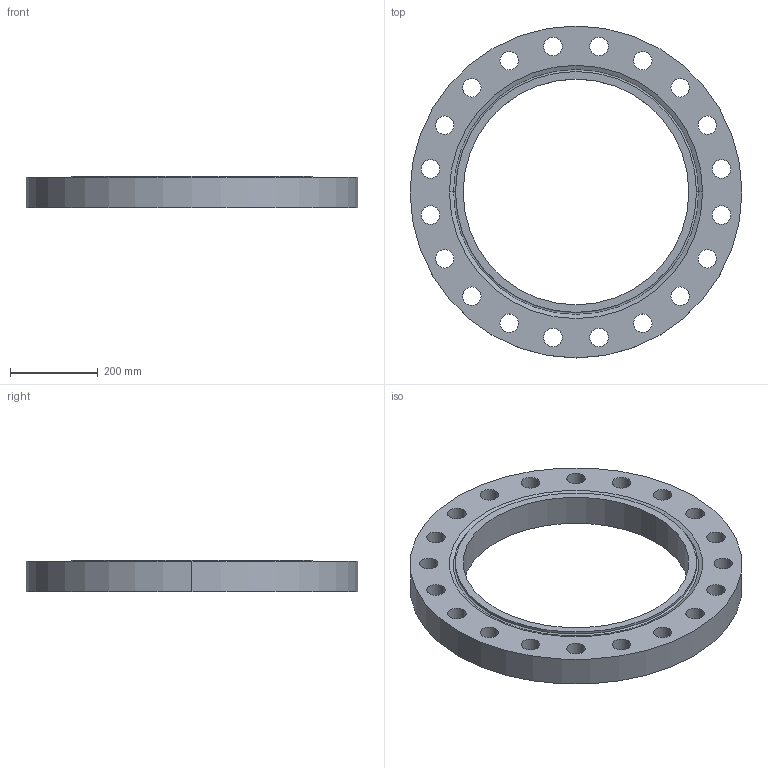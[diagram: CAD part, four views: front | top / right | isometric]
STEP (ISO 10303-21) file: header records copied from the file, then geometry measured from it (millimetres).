
FILE_DESCRIPTION (( 'STEP AP214' ), '1' );
FILE_NAME ('PN40 DN500 Type 01 - Type H Face.STEP', '2018-12-29T01:37:13', ( '' ), ( '' ), 'SwSTEP 2.0', 'SolidWorks 2019', '' );
FILE_SCHEMA (( 'AUTOMOTIVE_DESIGN' ));
Length unit declared in the file: millimetre
Products named in the file (1): PN40 DN500 Type 01 - Type H Face
Bounding box: 755 x 755 x 72 mm (x, y, z)
Volume: 14700036.7 mm3; surface area: 901192.3 mm2
Topology: 1 solids, 1 shells, 53 faces, 146 edges, 96 vertices
Faces by surface type: cylinder 46, plane 3, torus 2, cone 2
Entity records: 1864 total; most frequent: DIRECTION 352, CARTESIAN_POINT 296, ORIENTED_EDGE 292, AXIS2_PLACEMENT_3D 152, EDGE_CURVE 146, CIRCLE 98, VERTEX_POINT 96, EDGE_LOOP 96
